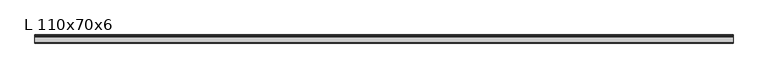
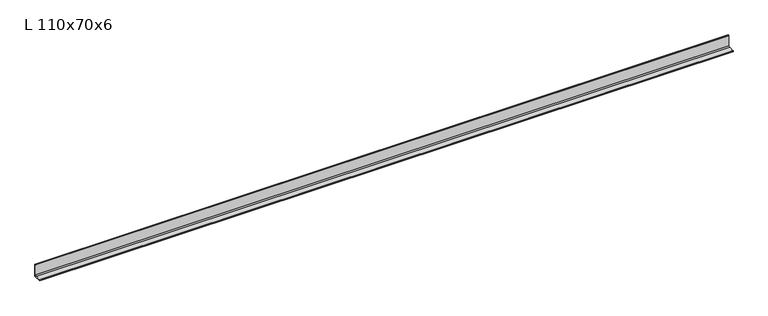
"""IFC4 building model written with IfcOpenShell, lengths in millimetres: beam geometry, Уголок (ГОСТ 8510-86) Балки : L 110x70x6."""

from ifc_helpers import new_model, si_unit, point, frame, frame_2d, origin, place, context, project, spatial, polyline, circle_curve, trimmed, segment, composite_curve, outline, extrude, source, transform, mapped, element, save


def l_110x70x6_fd97dbec(model_context):
    return source(origin(), model_context, "Body", "SweptSolid", [
        extrude(outline(composite_curve([segment(polyline([(15.8, -35.5), (-54.2, -35.5), (-54.2, -32.3)]), True, "CONTINUOUS"), segment(trimmed(circle_curve(frame_2d((-50.9, -32.3)), 3.3), [point((-54.2, -32.3))], [point((-50.9, -29.0))], False, "CARTESIAN"), True, "CONTINUOUS"), segment(polyline([(-50.9, -29.0), (-0.7, -29.0)]), True, "CONTINUOUS"), segment(trimmed(circle_curve(frame_2d((-0.7, -19.0)), 10.0), [point((-0.7, -29.0))], [point((9.3, -19.0))], True, "CARTESIAN"), True, "CONTINUOUS"), segment(polyline([(9.3, -19.0), (9.3, 71.2)]), True, "CONTINUOUS"), segment(trimmed(circle_curve(frame_2d((12.6, 71.2)), 3.3), [point((9.3, 71.2))], [point((12.6, 74.5))], False, "CARTESIAN"), True, "CONTINUOUS"), segment(polyline([(12.6, 74.5), (15.8, 74.5), (15.8, -35.5)]), True, "CONTINUOUS")], self_intersect=False)), frame((-2989.5, 0.0, 0.0), z_axis=(1.0, 0.0, 0.0), x_axis=(0.0, 1.0, 0.0)), (0.0, 0.0, 1.0), 5993.0),
    ])


if __name__ == "__main__":
    model = new_model("IFC4")
    model_context = context("Model", 3, world=origin())
    ifc_project = project(units=[si_unit("LENGTHUNIT", "METRE", prefix="MILLI")], contexts=[model_context])
    site = spatial("IfcSite", under=ifc_project)
    building = spatial("IfcBuilding", under=site)
    placement = place(None, origin())
    l_110x70x6_shape = l_110x70x6_fd97dbec(model_context)
    element("IfcBeam", 1, ObjectType="Уголок (ГОСТ 8510-86) Балки : L 110x70x6", at=placement, inside=building, context=model_context, shape_type="MappedRepresentation", body=[
        mapped(l_110x70x6_shape, transform((0.0, 0.0, 0.0), x_axis=(1.0, 0.0, 0.0), y_axis=(0.0, 1.0, 0.0), z_axis=(0.0, 0.0, 1.0))),
    ])
    save(model, "model.ifc")
